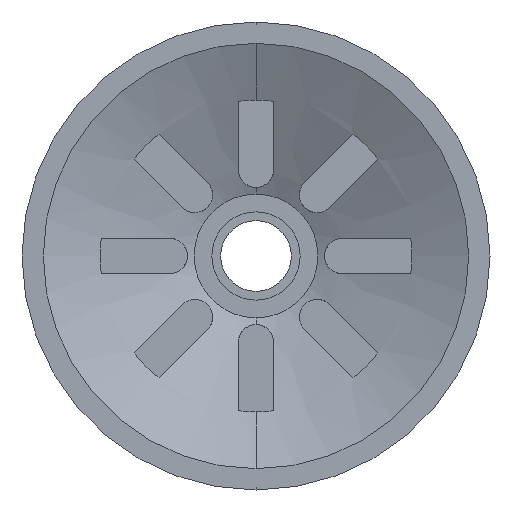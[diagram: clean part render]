
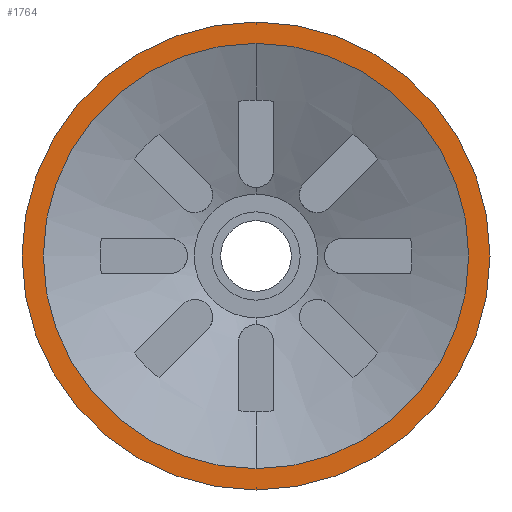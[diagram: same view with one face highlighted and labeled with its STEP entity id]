
A CAD part, front view. The second image highlights one B-rep face of the part: STEP entity #1764.
In plain terms, the highlighted planar face has unit normal (0, -1, 0).
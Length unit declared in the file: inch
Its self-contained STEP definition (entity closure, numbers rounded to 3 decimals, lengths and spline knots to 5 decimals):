
#59 = EDGE_CURVE ( 'NONE', #1560, #2909, #2618, .T. ) ;
#104 = AXIS2_PLACEMENT_3D ( 'NONE', #3108, #2880, #2295 ) ;
#168 = CIRCLE ( 'NONE', #595, 1.04331 ) ;
#236 = DIRECTION ( 'NONE',  ( 0., -1., 0. ) ) ;
#480 = CARTESIAN_POINT ( 'NONE',  ( 0., 0., 1.04331 ) ) ;
#514 = PLANE ( 'NONE',  #1351 ) ;
#595 = AXIS2_PLACEMENT_3D ( 'NONE', #3189, #597, #2160 ) ;
#597 = DIRECTION ( 'NONE',  ( 0., 1., 0. ) ) ;
#626 = EDGE_LOOP ( 'NONE', ( #1218, #991 ) ) ;
#666 = DIRECTION ( 'NONE',  ( 0., 1., 0. ) ) ;
#681 = CARTESIAN_POINT ( 'NONE',  ( 0., 0., -0.94841 ) ) ;
#749 = AXIS2_PLACEMENT_3D ( 'NONE', #3176, #809, #1858 ) ;
#809 = DIRECTION ( 'NONE',  ( 0., 1., 0. ) ) ;
#991 = ORIENTED_EDGE ( 'NONE', *, *, #3196, .F. ) ;
#999 = VERTEX_POINT ( 'NONE', #1448 ) ;
#1218 = ORIENTED_EDGE ( 'NONE', *, *, #1363, .F. ) ;
#1351 = AXIS2_PLACEMENT_3D ( 'NONE', #2851, #236, #3097 ) ;
#1361 = CIRCLE ( 'NONE', #1527, 0.94841 ) ;
#1363 = EDGE_CURVE ( 'NONE', #999, #2593, #2402, .T. ) ;
#1448 = CARTESIAN_POINT ( 'NONE',  ( 0., 0., -1.04331 ) ) ;
#1527 = AXIS2_PLACEMENT_3D ( 'NONE', #1951, #666, #3010 ) ;
#1560 = VERTEX_POINT ( 'NONE', #2476 ) ;
#1764 = ADVANCED_FACE ( 'NONE', ( #2035, #2868 ), #514, .T. ) ;
#1858 = DIRECTION ( 'NONE',  ( 0., 0., 1. ) ) ;
#1951 = CARTESIAN_POINT ( 'NONE',  ( 0., 0., 0. ) ) ;
#2035 = FACE_BOUND ( 'NONE', #3023, .T. ) ;
#2160 = DIRECTION ( 'NONE',  ( 0., 0., 1. ) ) ;
#2174 = ORIENTED_EDGE ( 'NONE', *, *, #2975, .T. ) ;
#2295 = DIRECTION ( 'NONE',  ( 0., 0., 1. ) ) ;
#2402 = CIRCLE ( 'NONE', #749, 1.04331 ) ;
#2476 = CARTESIAN_POINT ( 'NONE',  ( 0., 0., 0.94841 ) ) ;
#2555 = ORIENTED_EDGE ( 'NONE', *, *, #59, .T. ) ;
#2593 = VERTEX_POINT ( 'NONE', #480 ) ;
#2618 = CIRCLE ( 'NONE', #104, 0.94841 ) ;
#2851 = CARTESIAN_POINT ( 'NONE',  ( -0.04066, 0., 0. ) ) ;
#2868 = FACE_OUTER_BOUND ( 'NONE', #626, .T. ) ;
#2880 = DIRECTION ( 'NONE',  ( 0., 1., 0. ) ) ;
#2909 = VERTEX_POINT ( 'NONE', #681 ) ;
#2975 = EDGE_CURVE ( 'NONE', #2909, #1560, #1361, .T. ) ;
#3010 = DIRECTION ( 'NONE',  ( 0., 0., 1. ) ) ;
#3023 = EDGE_LOOP ( 'NONE', ( #2174, #2555 ) ) ;
#3097 = DIRECTION ( 'NONE',  ( 0., 0., -1. ) ) ;
#3108 = CARTESIAN_POINT ( 'NONE',  ( 0., 0., 0. ) ) ;
#3176 = CARTESIAN_POINT ( 'NONE',  ( 0., 0., 0. ) ) ;
#3189 = CARTESIAN_POINT ( 'NONE',  ( 0., 0., 0. ) ) ;
#3196 = EDGE_CURVE ( 'NONE', #2593, #999, #168, .T. ) ;
